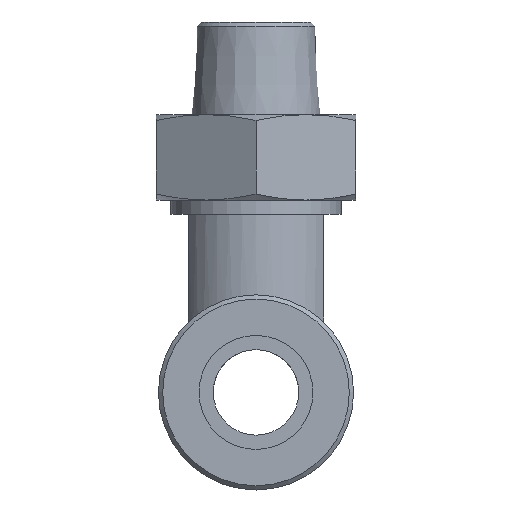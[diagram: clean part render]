
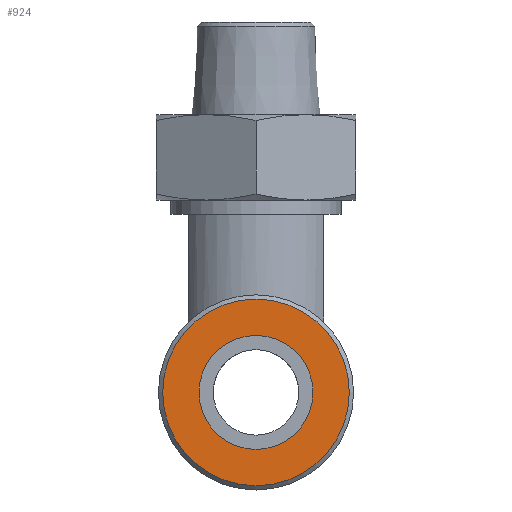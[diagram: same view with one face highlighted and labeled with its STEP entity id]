
A CAD part, front view. The second image highlights one B-rep face of the part: STEP entity #924.
In plain terms, the highlighted planar face has unit normal (0, -1, 0).
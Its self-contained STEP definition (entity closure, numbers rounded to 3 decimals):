
#47=FACE_BOUND('',#208,.T.);
#71=PLANE('',#1054);
#139=FACE_OUTER_BOUND('',#207,.T.);
#207=EDGE_LOOP('',(#784));
#208=EDGE_LOOP('',(#785));
#326=CIRCLE('',#980,4.);
#358=CIRCLE('',#1051,6.55);
#391=VERTEX_POINT('',#1426);
#441=VERTEX_POINT('',#1644);
#477=EDGE_CURVE('',#391,#391,#326,.T.);
#561=EDGE_CURVE('',#441,#441,#358,.T.);
#784=ORIENTED_EDGE('',*,*,#561,.F.);
#785=ORIENTED_EDGE('',*,*,#477,.T.);
#924=ADVANCED_FACE('',(#139,#47),#71,.F.);
#980=AXIS2_PLACEMENT_3D('',#1427,#1131,#1132);
#1051=AXIS2_PLACEMENT_3D('',#1646,#1299,#1300);
#1054=AXIS2_PLACEMENT_3D('',#1651,#1306,#1307);
#1131=DIRECTION('center_axis',(0.,1.,0.));
#1132=DIRECTION('ref_axis',(1.,0.,0.));
#1299=DIRECTION('center_axis',(0.,1.,0.));
#1300=DIRECTION('ref_axis',(-1.,0.,0.));
#1306=DIRECTION('center_axis',(0.,1.,0.));
#1307=DIRECTION('ref_axis',(0.,0.,1.));
#1426=CARTESIAN_POINT('',(-4.,-22.5,0.));
#1427=CARTESIAN_POINT('Origin',(0.,-22.5,0.));
#1644=CARTESIAN_POINT('',(6.55,-22.5,0.));
#1646=CARTESIAN_POINT('Origin',(0.,-22.5,0.));
#1651=CARTESIAN_POINT('Origin',(0.,-22.5,0.));
